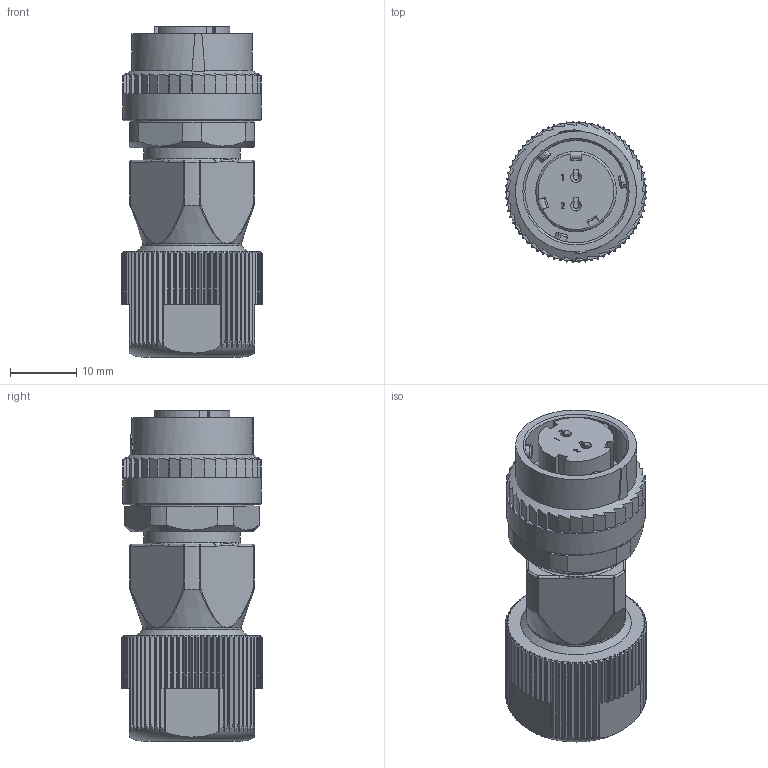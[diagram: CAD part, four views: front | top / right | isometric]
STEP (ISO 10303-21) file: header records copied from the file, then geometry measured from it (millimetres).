
FILE_DESCRIPTION (( 'STEP AP203' ), '1' );
FILE_NAME ('CMV1-SP2S-M1.STEP', '2018-11-13T09:13:43', ( '' ), ( '' ), 'SwSTEP 2.0', 'SolidWorks 2018', '' );
FILE_SCHEMA (( 'CONFIG_CONTROL_DESIGN' ));
Length unit declared in the file: millimetre
Products named in the file (1): CMV1-SP2S-M1
Bounding box: 21.4 x 21.38 x 50 mm (x, y, z)
Volume: 10388.8 mm3; surface area: 6360 mm2
Topology: 1 solids, 5 shells, 994 faces, 2749 edges, 1778 vertices
Faces by surface type: plane 426, cylinder 368, cone 94, bspline 80, torus 16, sphere 10
Full cylindrical faces by diameter (mm): 7.5 x1, 10 x1, 11.4 x1, 11.5 x1, 14.6 x1, 15 x1, 15.5 x1, 18.65 x1, 21 x1
Entity records: 34884 total; most frequent: CARTESIAN_POINT 10862, ORIENTED_EDGE 5414, DIRECTION 4490, EDGE_CURVE 2707, VERTEX_POINT 1766, AXIS2_PLACEMENT_3D 1622, VECTOR 1246, LINE 1246
